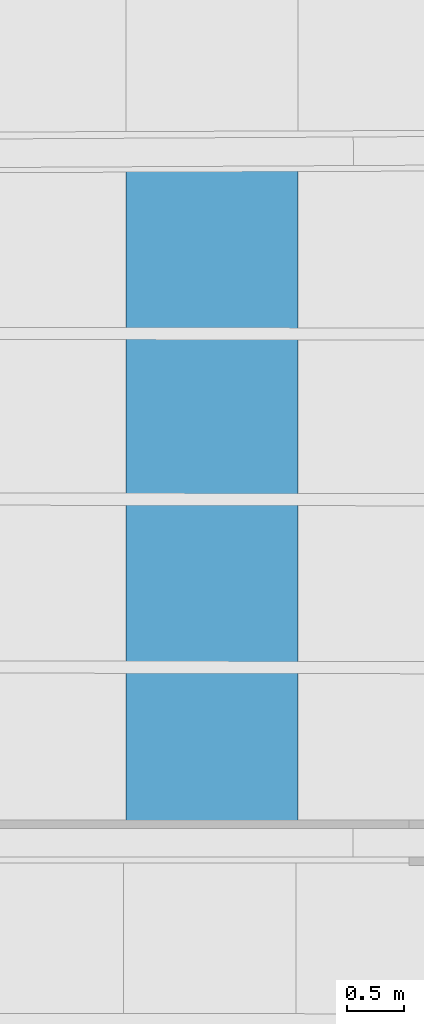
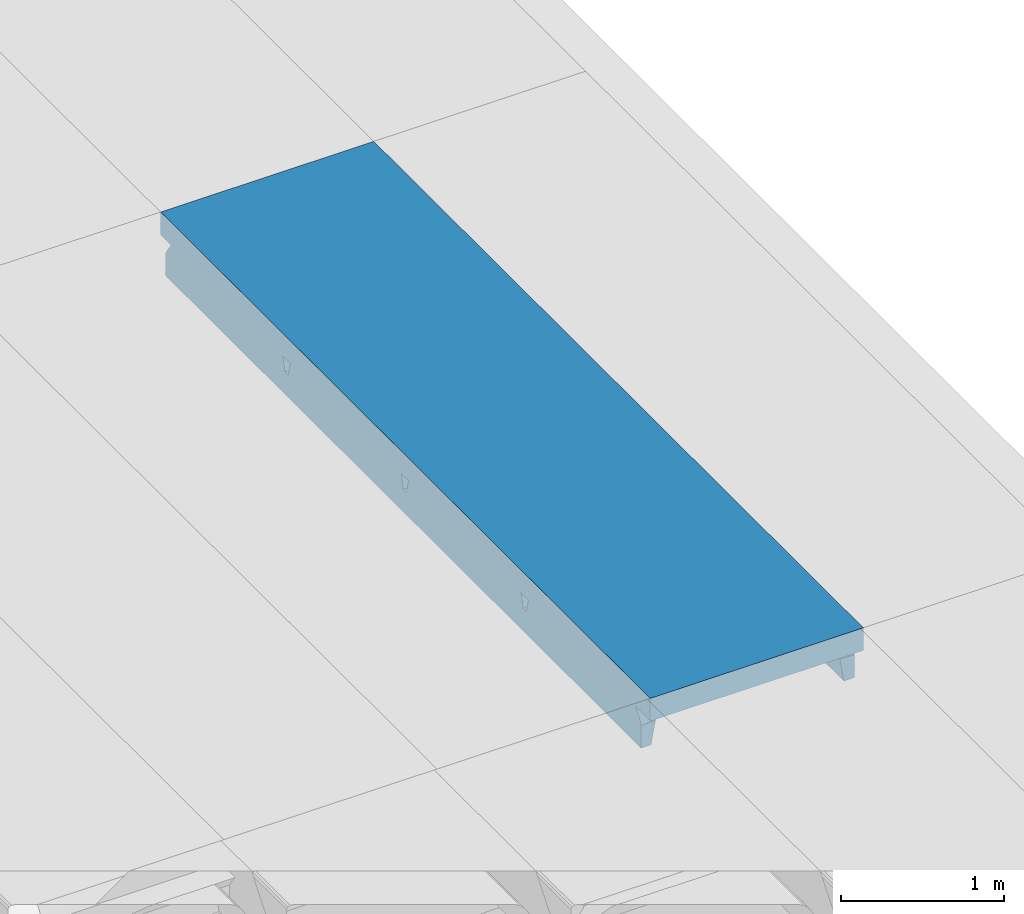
# One storey, part 58 of 301: 1 beam.
"""IFC2X3 building model written with IfcOpenShell, lengths in millimetres."""

from ifc_helpers import new_model, entity, si_unit, converted_unit, derived_unit, money_unit, direction, frame, origin_with_axes, place, context, subcontext, project, spatial, faceted_brep, material, type_object, element, save


model = new_model("IFC2X3")

# Units and contexts
model_context = context("Model", 3, precision=0.01, world=origin_with_axes(), true_north=direction((0.0, 1.0)))
body_context = subcontext(model_context, "Body", "Model", "MODEL_VIEW")
ifc_project = project(units=[si_unit("LENGTHUNIT", "METRE", prefix="MILLI"), si_unit("AREAUNIT", "SQUARE_METRE"), si_unit("VOLUMEUNIT", "CUBIC_METRE"), converted_unit("PLANEANGLEUNIT", "DEGREE", entity("IfcPlaneAngleMeasure", 0.0174532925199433), si_unit("PLANEANGLEUNIT", "RADIAN"), dimensions=[0, 0, 0, 0, 0, 0, 0]), money_unit("EUR"), converted_unit("TIMEUNIT", "Year", entity("IfcTimeMeasure", 31557600.0), si_unit("TIMEUNIT", "SECOND"), dimensions=[0, 0, 1, 0, 0, 0, 0]), si_unit("MASSUNIT", "GRAM", prefix="KILO"), si_unit("THERMODYNAMICTEMPERATUREUNIT", "DEGREE_CELSIUS"), si_unit("LUMINOUSINTENSITYUNIT", "LUMEN"), si_unit("ENERGYUNIT", "JOULE", prefix="MEGA"), derived_unit("THERMALCONDUCTANCEUNIT", [(si_unit("POWERUNIT", "WATT"), 1), (si_unit("LENGTHUNIT", "METRE"), -1), (si_unit("THERMODYNAMICTEMPERATUREUNIT", "KELVIN"), -1)]), derived_unit("SPECIFICHEATCAPACITYUNIT", [(si_unit("ENERGYUNIT", "JOULE"), 1), (si_unit("MASSUNIT", "GRAM", prefix="KILO"), -1), (si_unit("THERMODYNAMICTEMPERATUREUNIT", "KELVIN"), -1)]), derived_unit("MASSDENSITYUNIT", [(si_unit("MASSUNIT", "GRAM", prefix="KILO"), 1), (si_unit("VOLUMEUNIT", "CUBIC_METRE"), -1)])], contexts=[model_context])

# Site, building, storey
site_placement = place(None, frame((0.0, 0.0, 8650.0), z_axis=(0.0, 0.0, 1.0), x_axis=(1.0, 0.0, 0.0)))
site = spatial("IfcSite", under=ifc_project, at=site_placement, Name="43301:001:0844", CompositionType="ELEMENT")
building_placement = place(site_placement, origin_with_axes())
building = spatial("IfcBuilding", under=site, at=building_placement, Name="Kuressaare Ametikooli tuulikute mehaanikute õppekorpus", CompositionType="ELEMENT")
storey_placement = place(building_placement, origin_with_axes())
storey = spatial("IfcBuildingStorey", under=building, at=storey_placement, Name="1.korrus", CompositionType="ELEMENT", Elevation=0.0)

# Beam
ifc_material = material(Name="GENEERILINE - KONSTRUKTRIOON")
beam_type = type_object("IfcBeamType", Name="Precast Double Tee 2 1510 x 440", PredefinedType="NOTDEFINED")
beam_placement = place(storey_placement, frame((101000.8777537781, 56135.9993705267, 7100.000000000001), z_axis=(0.0, 0.0, 1.0), x_axis=(-1.0, 0.0, 0.0)))
element("IfcBeam", 1, at=beam_placement, inside=storey, type_object=beam_type, material=ifc_material, context=body_context, shape_type="Brep", body=[
    faceted_brep([(-754.9999999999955, 170.7603162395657, -169.8235046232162), (-754.9999999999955, 44.58847520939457, -169.8235046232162), (-754.9999999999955, 44.58847520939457, 0.0), (-754.9999999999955, 6050.694639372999, 0.0), (-754.9999999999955, 6050.694639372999, -169.8234995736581), (-754.9999999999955, 5872.439035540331, -169.8234995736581), (-754.9999999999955, 5883.401583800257, -181.3563575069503), (-754.9999999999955, 5915.074061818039, -222.371808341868), (-754.9999999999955, 5940.666052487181, -267.4324680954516), (-754.9999999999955, 5940.666575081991, -440.0001340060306), (-754.9999999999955, 102.5323371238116, -440.0001340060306), (-754.9999999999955, 102.5328597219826, -267.4324731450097), (-754.9999999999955, 128.1250152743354, -222.3718133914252), (-754.9999999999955, 159.7976973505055, -181.3563625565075), (-754.9999999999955, 1551.815280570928, -184.1935020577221), (-754.9999999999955, 1572.55622791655, -271.7709778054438), (-754.9999999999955, 1612.556281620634, -271.7709778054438), (-754.9999999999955, 1633.296267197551, -184.1936973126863), (-754.9999999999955, 1637.870886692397, -175.39783429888), (-754.9999999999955, 1646.069744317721, -169.8234995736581), (-754.9999999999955, 1539.041849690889, -169.8234995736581), (-754.9999999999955, 1547.240640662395, -175.3977593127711), (-754.9999999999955, 3023.668490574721, -271.7709778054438), (-754.9999999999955, 3063.668544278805, -271.7709778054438), (-754.9999999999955, 3084.408529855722, -184.1936973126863), (-754.9999999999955, 3088.983149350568, -175.39783429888), (-754.9999999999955, 3097.182006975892, -169.8234995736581), (-754.9999999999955, 2990.15411234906, -169.8234995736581), (-754.9999999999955, 2998.352903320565, -175.3977593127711), (-754.9999999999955, 3002.927543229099, -184.1935020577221), (-754.9999999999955, 4534.528600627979, -271.7709778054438), (-754.9999999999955, 4555.268586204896, -184.1936973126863), (-754.9999999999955, 4559.843205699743, -175.39783429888), (-754.9999999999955, 4568.042063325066, -169.8234995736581), (-754.9999999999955, 4461.014168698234, -169.8234995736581), (-754.9999999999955, 4469.21295966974, -175.3977593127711), (-754.9999999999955, 4473.787599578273, -184.1935020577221), (-754.9999999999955, 4494.528546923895, -271.7709778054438), (-588.1481649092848, 171.3610644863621, -169.8235046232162), (-588.1481649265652, 44.58847520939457, -169.8235046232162), (754.9999999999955, 44.58847520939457, -169.8235046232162), (754.9999999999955, 44.58847520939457, 0.0), (590.5789219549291, 44.58847520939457, -169.8234995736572), (593.6993855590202, 44.58847520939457, -169.7351493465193), (594.211646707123, 44.58847520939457, -169.8235046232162), (754.9999999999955, 6050.694639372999, 0.0), (754.9999999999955, 6050.694639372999, -169.8234995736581), (594.2116174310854, 6050.694639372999, -169.8234995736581), (593.6993855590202, 6050.694639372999, -169.7351493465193), (590.5789219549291, 6050.694639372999, -169.8234995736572), (-588.1481649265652, 6050.694639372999, -169.8234995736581), (-588.148164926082, 5872.392452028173, -169.8234995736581), (-608.1505435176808, 5875.798643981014, -173.40101840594), (-621.4954151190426, 5883.364310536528, -181.3563575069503), (-625.6043121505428, 5885.256947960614, -183.8058130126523), (-638.2645371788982, 5897.533799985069, -199.6996008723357), (-644.5028387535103, 5912.468890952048, -219.0380957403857), (-645.0308501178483, 5915.043359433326, -222.371808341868), (-652.1678002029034, 5940.637342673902, -267.4324680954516), (-679.4999969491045, 5940.645496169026, -440.0001340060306), (-679.4999969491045, 102.8041740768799, -440.0001340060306), (-652.1678010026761, 102.9031059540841, -267.4324731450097), (-645.030850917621, 128.5209580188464, -222.3718133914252), (-644.5028387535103, 131.0972006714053, -219.0380957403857), (-638.2645371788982, 146.0531071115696, -199.6996008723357), (-625.6043121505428, 158.3720865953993, -183.8058130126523), (-621.4954235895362, 160.2783791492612, -181.3563625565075), (-608.1505435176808, 167.8884215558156, -173.40101840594), (-625.9131265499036, 1551.603751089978, -184.1935020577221), (-638.2645371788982, 1555.296295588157, -199.6996008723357), (-644.5028387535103, 1559.886447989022, -219.0380957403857), (-652.8549567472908, 1572.388846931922, -271.7709778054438), (-652.8549567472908, 1612.388900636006, -271.7709778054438), (-644.5028387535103, 1624.863375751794, -219.0380957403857), (-638.2645371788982, 1629.432881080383, -199.6996008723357), (-625.913282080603, 1633.084737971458, -184.1936973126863), (-625.6043121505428, 1633.285965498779, -183.8058130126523), (-611.5001495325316, 1637.63573924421, -175.39783429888), (-608.1505435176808, 1640.567212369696, -173.40101840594), (-588.1481649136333, 1645.796330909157, -169.8234995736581), (-588.1481649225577, 1538.768436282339, -169.8234995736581), (-608.1505435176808, 1544.063137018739, -173.40101840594), (-611.5000237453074, 1547.005493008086, -175.3977593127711), (-625.6043121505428, 1551.401609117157, -183.8058130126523), (-652.8549567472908, 3023.501109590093, -271.7709778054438), (-652.8549567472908, 3063.501163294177, -271.7709778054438), (-644.5028387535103, 3075.975638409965, -219.0380957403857), (-638.2645371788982, 3080.545143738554, -199.6996008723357), (-625.913282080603, 3084.197000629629, -184.1936973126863), (-625.6043121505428, 3084.39822815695, -183.8058130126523), (-611.5001495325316, 3088.748001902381, -175.39783429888), (-608.1505435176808, 3091.679475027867, -173.40101840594), (-588.1481649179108, 3096.908593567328, -169.8234995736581), (-588.1481649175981, 2989.880698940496, -169.8234995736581), (-608.1505435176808, 2995.17539967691, -173.40101840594), (-611.5000237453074, 2998.117755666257, -175.3977593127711), (-625.6043121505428, 3002.513871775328, -183.8058130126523), (-625.9131265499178, 3002.716013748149, -184.1935020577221), (-638.2645371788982, 3006.408558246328, -199.6996008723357), (-644.5028387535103, 3010.998710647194, -219.0380957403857), (-638.2645371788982, 4551.405200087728, -199.6996008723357), (-625.913282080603, 4555.057056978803, -184.1936973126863), (-652.8549567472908, 4534.361219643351, -271.7709778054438), (-644.5028387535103, 4546.835694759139, -219.0380957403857), (-625.6043121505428, 4555.258284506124, -183.8058130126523), (-611.5001495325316, 4559.608058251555, -175.39783429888), (-608.1505435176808, 4562.539531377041, -173.40101840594), (-588.1481649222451, 4567.768649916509, -169.8234995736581), (-588.1481649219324, 4460.740755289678, -169.8234995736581), (-608.1505435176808, 4466.035456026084, -173.40101840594), (-611.5000237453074, 4468.977812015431, -175.3977593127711), (-625.6043121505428, 4473.373928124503, -183.8058130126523), (-625.9131265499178, 4473.576070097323, -184.1935020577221), (-644.5028387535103, 4481.858766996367, -219.0380957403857), (-652.8549567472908, 4494.361165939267, -271.7709778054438), (-638.2645371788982, 4477.268614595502, -199.6996008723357), (754.9999999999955, 176.1970550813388, -169.8235046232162), (754.9999999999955, 165.2344361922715, -181.3563625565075), (754.9999999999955, 133.5617541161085, -222.3718133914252), (754.9999999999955, 107.9695985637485, -267.4324731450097), (754.9999999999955, 107.9690759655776, -440.0001340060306), (754.9999999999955, 5940.244996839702, -440.0001340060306), (754.9999999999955, 5940.244474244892, -267.4324680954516), (754.9999999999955, 5914.65248357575, -222.371808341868), (754.9999999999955, 5882.980005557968, -181.3563575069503), (754.9999999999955, 5872.017457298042, -169.8234995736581), (754.9999999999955, 1635.39651026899, -175.39783429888), (754.9999999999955, 1630.821890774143, -184.1936973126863), (754.9999999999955, 1610.081905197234, -271.7709778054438), (754.9999999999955, 1570.08185149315, -271.7709778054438), (754.9999999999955, 1549.34090414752, -184.1935020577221), (754.9999999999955, 1544.766264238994, -175.3977593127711), (754.9999999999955, 1536.567473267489, -169.8234995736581), (754.9999999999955, 1643.595367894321, -169.8234995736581), (754.9999999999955, 3081.934153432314, -184.1936973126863), (754.9999999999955, 3061.194167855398, -271.7709778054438), (754.9999999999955, 3021.194114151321, -271.7709778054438), (754.9999999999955, 3000.453166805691, -184.1935020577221), (754.9999999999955, 2995.878526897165, -175.3977593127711), (754.9999999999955, 2987.67973592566, -169.8234995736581), (754.9999999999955, 3094.707630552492, -169.8234995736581), (754.9999999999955, 3086.508772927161, -175.39783429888), (754.9999999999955, 4532.054224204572, -271.7709778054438), (754.9999999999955, 4492.054170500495, -271.7709778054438), (754.9999999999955, 4471.313223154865, -184.1935020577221), (754.9999999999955, 4466.73858324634, -175.3977593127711), (754.9999999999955, 4458.539792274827, -169.8234995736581), (754.9999999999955, 4565.567686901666, -169.8234995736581), (754.9999999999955, 4557.368829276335, -175.39783429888), (754.9999999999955, 4552.794209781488, -184.1936973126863), (594.211646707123, 175.6181383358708, -169.8235046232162), (594.2116174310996, 5872.062347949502, -169.8234995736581), (610.5576441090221, 5874.737741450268, -172.6428773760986), (610.5576441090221, 4561.657574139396, -172.6428773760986), (594.2116174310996, 4565.83116437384, -169.8234995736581), (594.2116174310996, 4458.803269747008, -169.8234995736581), (610.5576441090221, 4462.923310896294, -172.6428773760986), (610.5576441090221, 3090.797517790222, -172.6428773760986), (594.2116174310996, 3094.971108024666, -169.8234995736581), (594.2116174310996, 2987.943213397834, -169.8234995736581), (610.5576441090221, 2992.063254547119, -172.6428773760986), (610.5576441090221, 1639.685255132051, -172.6428773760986), (594.2116174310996, 1643.858845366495, -169.8234995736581), (594.2116174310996, 1536.830950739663, -169.8234995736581), (610.5576441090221, 1540.950991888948, -172.6428773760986), (610.5576441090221, 172.997022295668, -172.6428773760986), (625.4118792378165, 164.9843579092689, -181.1285984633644), (625.6051084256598, 164.7685512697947, -181.3563625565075), (636.4790028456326, 154.9099864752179, -194.1736948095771), (642.4305280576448, 142.5462305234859, -210.2122455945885), (644.6584606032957, 133.164470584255, -222.3718133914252), (652.9146841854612, 107.6020414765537, -267.4324731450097), (684.5333333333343, 107.7153614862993, -440.0001340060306), (684.5333333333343, 5940.264670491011, -440.0001340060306), (652.9146832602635, 5940.272975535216, -267.4324680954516), (644.658459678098, 5914.683289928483, -222.371808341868), (625.6051041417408, 5883.016131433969, -181.3563575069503), (642.4305280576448, 5905.294194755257, -210.2122455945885), (636.4790028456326, 5892.910751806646, -194.1736948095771), (625.4118792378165, 5882.799689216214, -181.1285984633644), (625.4118792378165, 1632.628361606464, -181.1285984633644), (628.0122301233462, 1631.02998053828, -184.1936973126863), (615.3801898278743, 1635.625299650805, -175.39783429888), (642.4305280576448, 1624.844660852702, -210.2122455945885), (653.7096051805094, 1610.247885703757, -271.7709778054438), (636.4790028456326, 1628.652650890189, -194.1736948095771), (653.7096051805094, 1570.24783199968, -271.7709778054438), (642.4305280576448, 1555.687378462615, -210.2122455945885), (636.4790028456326, 1551.898725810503, -194.1736948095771), (628.0120644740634, 1549.548994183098, -184.1935020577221), (615.3800585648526, 1544.995053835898, -175.3977593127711), (625.4118792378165, 1547.959207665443, -181.1285984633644), (653.7096051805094, 3061.360148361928, -271.7709778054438), (628.0122301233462, 3082.142243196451, -184.1936973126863), (636.4790028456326, 3079.764913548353, -194.1736948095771), (642.4305280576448, 3075.956923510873, -210.2122455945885), (653.7096051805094, 3021.360094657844, -271.7709778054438), (642.4305280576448, 3006.799641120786, -210.2122455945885), (636.4790028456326, 3003.010988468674, -194.1736948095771), (628.0120644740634, 3000.661256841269, -184.1935020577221), (625.4118792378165, 2999.071470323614, -181.1285984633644), (615.3800585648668, 2996.107316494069, -175.3977593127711), (615.3801898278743, 3086.737562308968, -175.39783429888), (625.4118792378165, 3083.740624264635, -181.1285984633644), (653.7096051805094, 4532.220204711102, -271.7709778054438), (653.7096051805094, 4492.220151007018, -271.7709778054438), (642.4305280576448, 4477.659697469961, -210.2122455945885), (636.4790028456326, 4473.871044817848, -194.1736948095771), (628.0120644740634, 4471.521313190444, -184.1935020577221), (625.4118792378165, 4469.931526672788, -181.1285984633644), (615.3800585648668, 4466.967372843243, -175.3977593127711), (615.3801898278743, 4557.597618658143, -175.39783429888), (625.4118792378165, 4554.600680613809, -181.1285984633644), (628.0122301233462, 4553.002299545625, -184.1936973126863), (636.4790028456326, 4550.624969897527, -194.1736948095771), (642.4305280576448, 4546.816979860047, -210.2122455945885)], [[[0, 1, 2, 3, 4, 5, 6, 7, 8, 9, 10, 11, 12, 13], [14, 15, 16, 17, 18, 19, 20, 21], [22, 23, 24, 25, 26, 27, 28, 29], [30, 31, 32, 33, 34, 35, 36, 37]], [[38, 39, 1, 0]], [[40, 41, 2, 1, 39, 42, 43, 44]], [[3, 2, 41, 45]], [[45, 46, 47, 48, 49, 50, 4, 3]], [[51, 5, 4, 50]], [[6, 5, 51, 52, 53]], [[53, 54, 55, 56, 57, 7, 6]], [[58, 8, 7, 57]], [[59, 9, 8, 58]], [[10, 9, 59, 60]], [[60, 61, 11, 10]], [[61, 62, 12, 11]], [[12, 62, 63, 64, 65, 66, 13]], [[38, 0, 13, 66, 67]], [[68, 69, 70, 71, 15, 14]], [[16, 15, 71, 72]], [[72, 73, 74, 75, 17, 16]], [[17, 75, 76, 77, 18]], [[18, 77, 78, 79, 19]], [[20, 19, 79, 80]], [[20, 80, 81, 82, 21]], [[21, 82, 83, 68, 14]], [[22, 84, 85, 23]], [[86, 87, 88, 24, 23, 85]], [[88, 89, 90, 25, 24]], [[90, 91, 92, 26, 25]], [[26, 92, 93, 27]], [[93, 94, 95, 28, 27]], [[95, 96, 97, 29, 28]], [[98, 99, 84, 22, 29, 97]], [[100, 101, 31, 30, 102, 103]], [[104, 105, 32, 31, 101]], [[106, 107, 33, 32, 105]], [[107, 108, 34, 33]], [[109, 110, 35, 34, 108]], [[111, 112, 36, 35, 110]], [[113, 114, 37, 36, 112, 115]], [[114, 102, 30, 37]], [[49, 42, 39, 38, 80, 79, 93, 92, 108, 107, 51, 50]], [[45, 41, 40, 116, 117, 118, 119, 120, 121, 122, 123, 124, 125, 46], [126, 127, 128, 129, 130, 131, 132, 133], [134, 135, 136, 137, 138, 139, 140, 141], [142, 143, 144, 145, 146, 147, 148, 149]], [[48, 43, 42, 49]], [[150, 44, 43, 48, 47, 151, 152, 153, 154, 155, 156, 157, 158, 159, 160, 161, 162, 163, 164, 165]], [[116, 40, 44, 150]], [[125, 151, 47, 46]], [[52, 51, 107, 106]], [[52, 106, 105, 104, 54, 53]], [[54, 104, 101, 100, 55]], [[56, 55, 100, 103]], [[57, 56, 103, 102, 114, 113, 86, 85, 84, 99, 73, 72, 71, 70, 63, 62, 61, 60, 59, 58]], [[70, 69, 64, 63]], [[83, 65, 64, 69, 68]], [[67, 66, 65, 83, 82, 81]], [[81, 80, 38, 67]], [[98, 74, 73, 99]], [[75, 74, 98, 97, 96, 76]], [[77, 76, 96, 95, 94, 78]], [[93, 79, 78, 94]], [[87, 86, 113, 115]], [[87, 115, 112, 111, 89, 88]], [[89, 111, 110, 109, 91, 90]], [[92, 91, 109, 108]], [[150, 165, 166, 167, 117, 116]], [[167, 168, 169, 170, 118, 117]], [[119, 118, 170, 171]], [[120, 119, 171, 172]], [[172, 173, 121, 120]], [[121, 173, 174, 122]], [[122, 174, 175, 123]], [[176, 124, 123, 175, 177, 178]], [[151, 125, 124, 176, 179, 152]], [[180, 181, 127, 126, 182]], [[183, 184, 128, 127, 181, 185]], [[184, 186, 129, 128]], [[130, 129, 186, 187, 188, 189]], [[190, 131, 130, 189, 191]], [[163, 132, 131, 190, 164]], [[163, 162, 133, 132]], [[161, 182, 126, 133, 162]], [[192, 135, 134, 193, 194, 195]], [[196, 136, 135, 192]], [[136, 196, 197, 198, 199, 137]], [[138, 137, 199, 200, 201]], [[139, 138, 201, 160, 159]], [[158, 140, 139, 159]], [[202, 141, 140, 158, 157]], [[193, 134, 141, 202, 203]], [[143, 142, 204, 205]], [[205, 206, 207, 208, 144, 143]], [[144, 208, 209, 210, 145]], [[145, 210, 156, 155, 146]], [[147, 146, 155, 154]], [[148, 147, 154, 153, 211]], [[149, 148, 211, 212, 213]], [[142, 149, 213, 214, 215, 204]], [[179, 212, 211, 153, 152]], [[157, 156, 210, 209, 203, 202]], [[182, 161, 160, 201, 200, 180]], [[191, 166, 165, 164, 190]], [[168, 167, 166, 191, 189, 188]], [[188, 187, 169, 168]], [[206, 205, 204, 215, 177, 175, 174, 173, 172, 171, 170, 169, 187, 186, 184, 183, 197, 196, 192, 195]], [[178, 177, 215, 214]], [[178, 214, 213, 212, 179, 176]], [[181, 180, 200, 199, 198, 185]], [[197, 183, 185, 198]], [[203, 209, 208, 207, 194, 193]], [[195, 194, 207, 206]]]),
])

save(model, "model.ifc")
